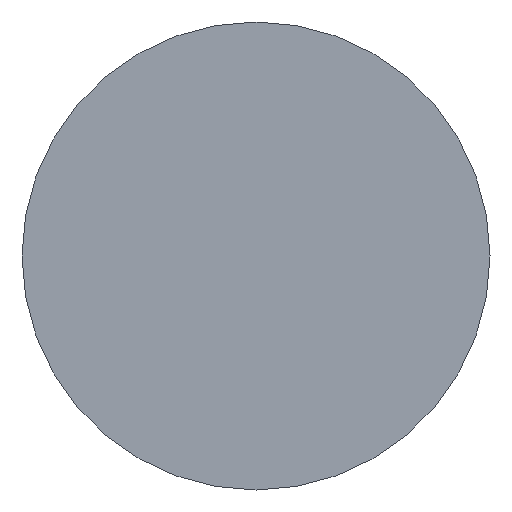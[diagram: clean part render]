
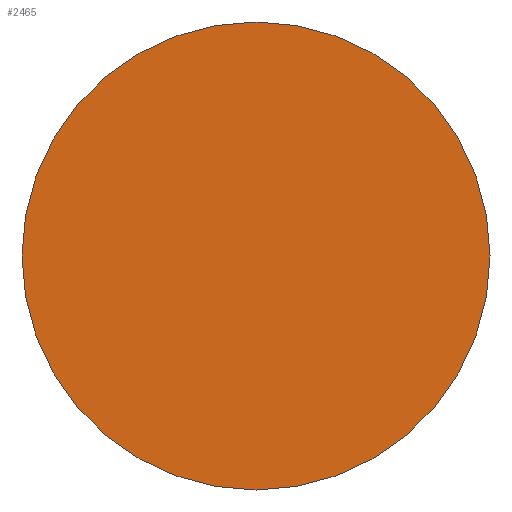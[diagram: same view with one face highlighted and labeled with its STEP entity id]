
A CAD part, front view. The second image highlights one B-rep face of the part: STEP entity #2465.
In plain terms, the highlighted planar face has unit normal (0, -1, 0).
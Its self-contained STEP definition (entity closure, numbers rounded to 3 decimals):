
#352 = FACE_OUTER_BOUND ( 'NONE', #1856, .T. ) ;
#394 = CARTESIAN_POINT ( 'NONE',  ( 0., -1.5, 0. ) ) ;
#1050 = VERTEX_POINT ( 'NONE', #6717 ) ;
#1737 = AXIS2_PLACEMENT_3D ( 'NONE', #5453, #7875, #4693 ) ;
#1856 = EDGE_LOOP ( 'NONE', ( #3472, #1884 ) ) ;
#1884 = ORIENTED_EDGE ( 'NONE', *, *, #2912, .F. ) ;
#1903 = CIRCLE ( 'NONE', #5096, 165. ) ;
#1954 = DIRECTION ( 'NONE',  ( 0., 1., 0. ) ) ;
#2080 = DIRECTION ( 'NONE',  ( 0., 0., 1. ) ) ;
#2259 = CIRCLE ( 'NONE', #1737, 165. ) ;
#2465 = ADVANCED_FACE ( 'NONE', ( #352 ), #5238, .F. ) ;
#2912 = EDGE_CURVE ( 'NONE', #1050, #3720, #2259, .T. ) ;
#2963 = DIRECTION ( 'NONE',  ( 0., 1., 0. ) ) ;
#3472 = ORIENTED_EDGE ( 'NONE', *, *, #7459, .F. ) ;
#3720 = VERTEX_POINT ( 'NONE', #5356 ) ;
#4693 = DIRECTION ( 'NONE',  ( 0., 0., 1. ) ) ;
#5096 = AXIS2_PLACEMENT_3D ( 'NONE', #6238, #1954, #2080 ) ;
#5238 = PLANE ( 'NONE',  #6871 ) ;
#5356 = CARTESIAN_POINT ( 'NONE',  ( 0., -1.5, 165. ) ) ;
#5453 = CARTESIAN_POINT ( 'NONE',  ( 0., -1.5, 0. ) ) ;
#6238 = CARTESIAN_POINT ( 'NONE',  ( 0., -1.5, 0. ) ) ;
#6717 = CARTESIAN_POINT ( 'NONE',  ( 0., -1.5, -165. ) ) ;
#6871 = AXIS2_PLACEMENT_3D ( 'NONE', #394, #2963, #7674 ) ;
#7459 = EDGE_CURVE ( 'NONE', #3720, #1050, #1903, .T. ) ;
#7674 = DIRECTION ( 'NONE',  ( 1., 0., 0. ) ) ;
#7875 = DIRECTION ( 'NONE',  ( 0., 1., 0. ) ) ;
